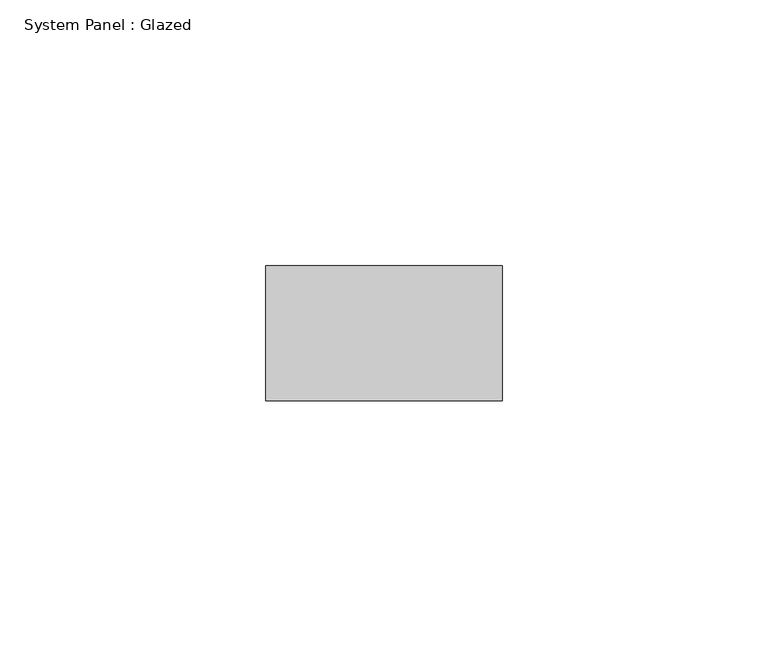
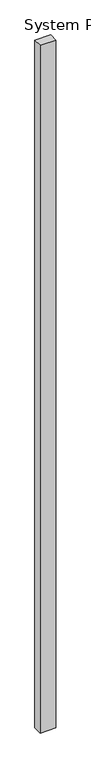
"""IFC4 building model written with IfcOpenShell, lengths in millimetres: plate geometry, System Panel : Glazed."""

from ifc_helpers import new_model, si_unit, origin, origin_with_axes, place, context, project, spatial, polyline, outline, extrude, source, transform, mapped, element, save


def system_panel_glazed_ddef2f45(model_context):
    return source(origin(), model_context, "Body", "SweptSolid", [
        extrude(outline(polyline([(22.225, 19.05), (-22.225, 19.05), (-22.225, 44.45), (22.225, 44.45), (22.225, 19.05)])), origin_with_axes(), (0.0, 0.0, 1.0), 2070.1),
    ])


if __name__ == "__main__":
    model = new_model("IFC4")
    model_context = context("Model", 3, world=origin())
    ifc_project = project(units=[si_unit("LENGTHUNIT", "METRE", prefix="MILLI")], contexts=[model_context])
    site = spatial("IfcSite", under=ifc_project)
    building = spatial("IfcBuilding", under=site)
    placement = place(None, origin())
    system_panel_glazed_shape = system_panel_glazed_ddef2f45(model_context)
    element("IfcPlate", 1, ObjectType="System Panel : Glazed", at=placement, inside=building, context=model_context, shape_type="MappedRepresentation", body=[
        mapped(system_panel_glazed_shape, transform((0.0, 0.0, 0.0), x_axis=(1.0, 0.0, 0.0), y_axis=(0.0, 1.0, 0.0), z_axis=(0.0, 0.0, 1.0))),
    ])
    save(model, "model.ifc")
